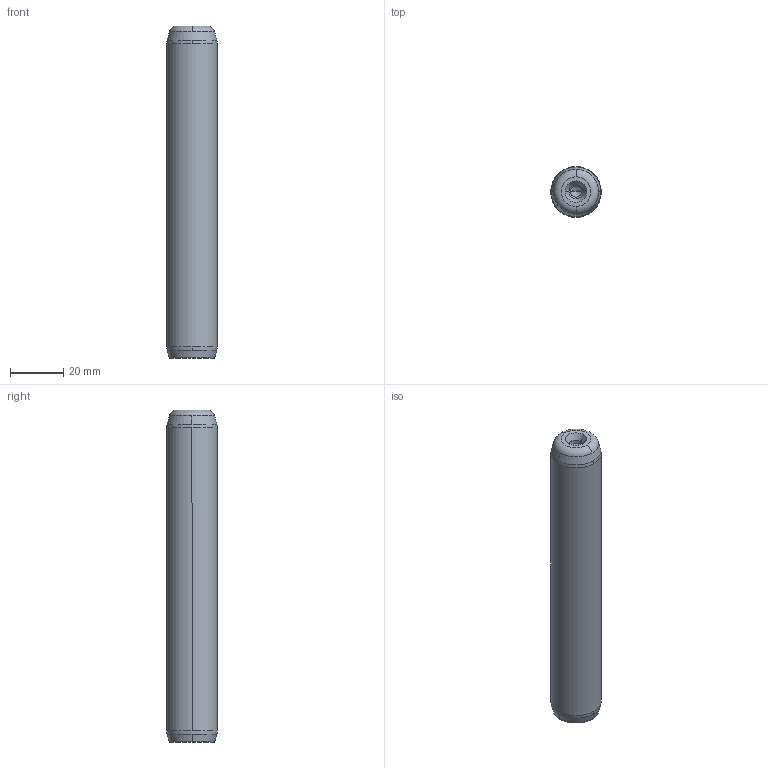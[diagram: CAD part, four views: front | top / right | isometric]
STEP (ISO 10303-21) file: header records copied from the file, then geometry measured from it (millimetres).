
FILE_DESCRIPTION((''),'2;1');
FILE_NAME('P10_019_125.stp','2008-12-23T13:55:51',(''),(''),'Mechanical Desktop 2009','Mechanical Desktop 2009',', , ');
FILE_SCHEMA(('CONFIG_CONTROL_DESIGN'));
Length unit declared in the file: millimetre
Products named in the file (5): Product; ProductAA; blmdl1; ProductA; blmdl1A
Assembly tree (2 placements, depth 3):
  Product
    ProductAA
      blmdl1
  ProductA
  blmdl1A
Bounding box: 19 x 19 x 125 mm (x, y, z)
Volume: 34714.5 mm3; surface area: 8049.8 mm2
Topology: 1 solids, 1 shells, 26 faces, 66 edges, 41 vertices
Faces by surface type: cone 10, cylinder 6, torus 4, bspline 4, plane 2
Entity records: 1100 total; most frequent: CARTESIAN_POINT 238, DIRECTION 162, ORIENTED_EDGE 128, AXIS2_PLACEMENT_3D 73, EDGE_CURVE 64, CIRCLE 48, VERTEX_POINT 41, EDGE_LOOP 27
